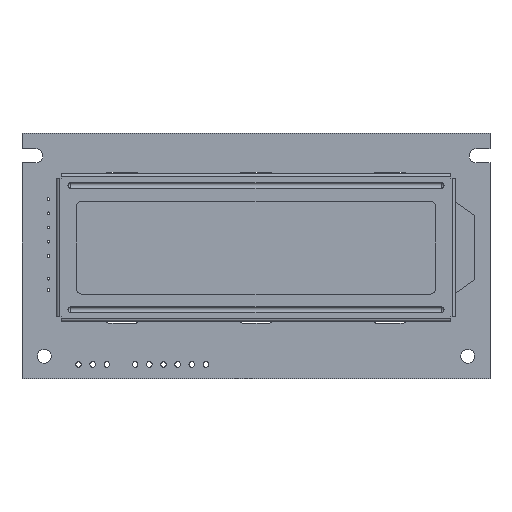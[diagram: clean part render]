
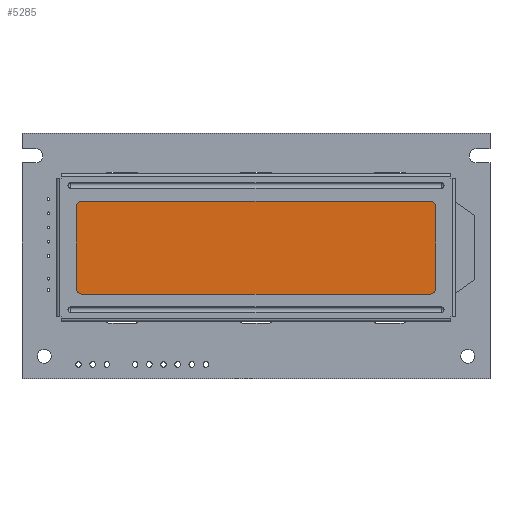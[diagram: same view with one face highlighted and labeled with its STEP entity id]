
A CAD part, top view. The second image highlights one B-rep face of the part: STEP entity #5285.
In plain terms, the highlighted planar face has unit normal (0, 0, 1).
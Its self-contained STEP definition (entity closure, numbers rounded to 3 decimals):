
#304 = DIRECTION ( 'NONE',  ( 0., -1., 0. ) ) ;
#798 = DIRECTION ( 'NONE',  ( 1., 0., 0. ) ) ;
#839 = CARTESIAN_POINT ( 'NONE',  ( 1.75, 23.2, 11.7 ) ) ;
#920 = CARTESIAN_POINT ( 'NONE',  ( 69.75, 3.2, 11.7 ) ) ;
#1093 = CARTESIAN_POINT ( 'NONE',  ( 69.75, 23.2, 11.7 ) ) ;
#1120 = VERTEX_POINT ( 'NONE', #1368 ) ;
#1368 = CARTESIAN_POINT ( 'NONE',  ( 1.75, 3.2, 11.7 ) ) ;
#1468 = VECTOR ( 'NONE', #8220, 1000. ) ;
#1510 = EDGE_LOOP ( 'NONE', ( #6791, #3667, #7556, #1595 ) ) ;
#1595 = ORIENTED_EDGE ( 'NONE', *, *, #9303, .F. ) ;
#1917 = CARTESIAN_POINT ( 'NONE',  ( 69.75, 23.2, 11.7 ) ) ;
#2129 = DIRECTION ( 'NONE',  ( 0., 0., -1. ) ) ;
#3149 = VECTOR ( 'NONE', #798, 1000. ) ;
#3402 = LINE ( 'NONE', #1917, #9672 ) ;
#3667 = ORIENTED_EDGE ( 'NONE', *, *, #5030, .F. ) ;
#3763 = DIRECTION ( 'NONE',  ( 1., 0., 0. ) ) ;
#4034 = CARTESIAN_POINT ( 'NONE',  ( 69.75, 3.2, 11.7 ) ) ;
#4147 = LINE ( 'NONE', #9153, #1468 ) ;
#4735 = CARTESIAN_POINT ( 'NONE',  ( 1.75, 23.2, 11.7 ) ) ;
#5030 = EDGE_CURVE ( 'NONE', #9930, #8461, #3402, .T. ) ;
#5285 = ADVANCED_FACE ( 'NONE', ( #6237 ), #7879, .F. ) ;
#6201 = LINE ( 'NONE', #920, #8482 ) ;
#6237 = FACE_OUTER_BOUND ( 'NONE', #1510, .T. ) ;
#6513 = VERTEX_POINT ( 'NONE', #4735 ) ;
#6791 = ORIENTED_EDGE ( 'NONE', *, *, #9254, .F. ) ;
#7014 = CARTESIAN_POINT ( 'NONE',  ( 1.25, 25.7, 11.7 ) ) ;
#7556 = ORIENTED_EDGE ( 'NONE', *, *, #8425, .F. ) ;
#7879 = PLANE ( 'NONE',  #10225 ) ;
#8220 = DIRECTION ( 'NONE',  ( 0., 1., 0. ) ) ;
#8355 = DIRECTION ( 'NONE',  ( -1., 0., 0. ) ) ;
#8425 = EDGE_CURVE ( 'NONE', #6513, #9930, #10176, .T. ) ;
#8461 = VERTEX_POINT ( 'NONE', #4034 ) ;
#8482 = VECTOR ( 'NONE', #8355, 1000. ) ;
#9153 = CARTESIAN_POINT ( 'NONE',  ( 1.75, 3.2, 11.7 ) ) ;
#9254 = EDGE_CURVE ( 'NONE', #8461, #1120, #6201, .T. ) ;
#9303 = EDGE_CURVE ( 'NONE', #1120, #6513, #4147, .T. ) ;
#9672 = VECTOR ( 'NONE', #304, 1000. ) ;
#9930 = VERTEX_POINT ( 'NONE', #1093 ) ;
#10176 = LINE ( 'NONE', #839, #3149 ) ;
#10225 = AXIS2_PLACEMENT_3D ( 'NONE', #7014, #2129, #3763 ) ;
